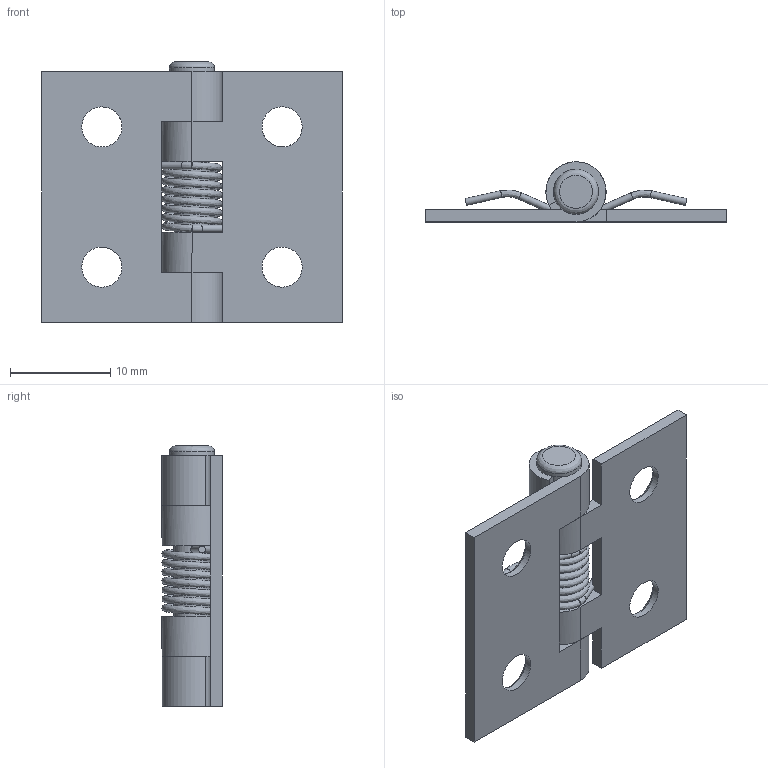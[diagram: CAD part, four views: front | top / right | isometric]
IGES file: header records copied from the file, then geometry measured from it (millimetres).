
Global section: file name: DR_HS2530-12; native system: Autodesk Inventor 2015; preprocessor: unknown; author: Administrator; date: 20170821.153943; units: millimetre
Bounding box: 30 x 6 x 26 mm (x, y, z)
Volume: 1308.8 mm3; surface area: 2659.6 mm2
Topology: 4 solids, 4 shells, 61 faces, 157 edges, 105 vertices
Faces by surface type: bspline 61
